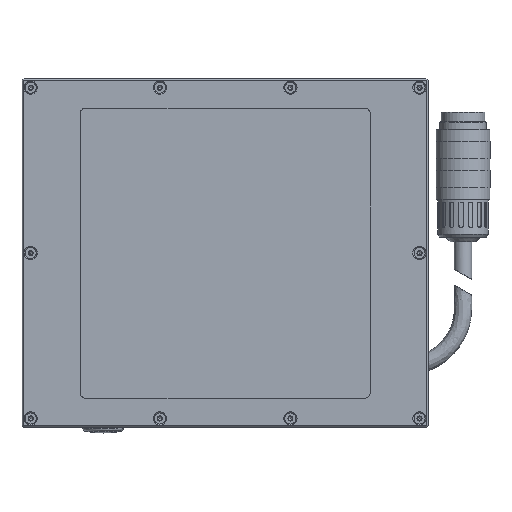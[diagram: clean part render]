
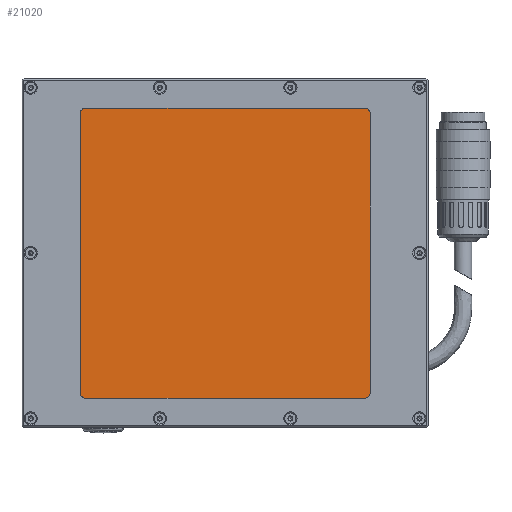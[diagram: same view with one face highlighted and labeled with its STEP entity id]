
A CAD part, top view. The second image highlights one B-rep face of the part: STEP entity #21020.
In plain terms, the highlighted planar face has unit normal (0, 0, 1).
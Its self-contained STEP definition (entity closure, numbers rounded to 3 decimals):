
#1581=CIRCLE('',#22426,2.);
#1582=CIRCLE('',#22428,2.);
#1583=CIRCLE('',#22430,2.);
#1584=CIRCLE('',#22432,2.);
#5241=ORIENTED_EDGE('',*,*,#7492,.T.);
#5242=ORIENTED_EDGE('',*,*,#7499,.T.);
#5243=ORIENTED_EDGE('',*,*,#7489,.T.);
#5244=ORIENTED_EDGE('',*,*,#7500,.T.);
#5245=ORIENTED_EDGE('',*,*,#7486,.T.);
#5246=ORIENTED_EDGE('',*,*,#7501,.T.);
#5247=ORIENTED_EDGE('',*,*,#7495,.T.);
#5248=ORIENTED_EDGE('',*,*,#7498,.T.);
#7486=EDGE_CURVE('',#9010,#9011,#1581,.T.);
#7489=EDGE_CURVE('',#9012,#9013,#1582,.T.);
#7492=EDGE_CURVE('',#9014,#9015,#1583,.T.);
#7495=EDGE_CURVE('',#9016,#9017,#1584,.T.);
#7498=EDGE_CURVE('',#9017,#9014,#10054,.T.);
#7499=EDGE_CURVE('',#9015,#9012,#10055,.T.);
#7500=EDGE_CURVE('',#9013,#9010,#10056,.T.);
#7501=EDGE_CURVE('',#9011,#9016,#10057,.T.);
#9010=VERTEX_POINT('',#33712);
#9011=VERTEX_POINT('',#33713);
#9012=VERTEX_POINT('',#33718);
#9013=VERTEX_POINT('',#33719);
#9014=VERTEX_POINT('',#33724);
#9015=VERTEX_POINT('',#33725);
#9016=VERTEX_POINT('',#33730);
#9017=VERTEX_POINT('',#33731);
#10054=LINE('',#33736,#10987);
#10055=LINE('',#33738,#10988);
#10056=LINE('',#33740,#10989);
#10057=LINE('',#33742,#10990);
#10987=VECTOR('',#25994,1000.);
#10988=VECTOR('',#25997,1000.);
#10989=VECTOR('',#26000,1000.);
#10990=VECTOR('',#26003,1000.);
#12046=EDGE_LOOP('',(#5241,#5242,#5243,#5244,#5245,#5246,#5247,#5248));
#13231=FACE_BOUND('',#12046,.T.);
#13783=PLANE('',#22474);
#21020=ADVANCED_FACE('',(#13231),#13783,.T.);
#22426=AXIS2_PLACEMENT_3D('',#33711,#25968,#25969);
#22428=AXIS2_PLACEMENT_3D('',#33717,#25974,#25975);
#22430=AXIS2_PLACEMENT_3D('',#33723,#25980,#25981);
#22432=AXIS2_PLACEMENT_3D('',#33729,#25986,#25987);
#22474=AXIS2_PLACEMENT_3D('',#37492,#26077,#26078);
#25968=DIRECTION('',(0.,0.,1.));
#25969=DIRECTION('',(1.,0.,0.));
#25974=DIRECTION('',(0.,0.,1.));
#25975=DIRECTION('',(1.,0.,0.));
#25980=DIRECTION('',(0.,0.,1.));
#25981=DIRECTION('',(1.,0.,0.));
#25986=DIRECTION('',(0.,0.,1.));
#25987=DIRECTION('',(1.,0.,0.));
#25994=DIRECTION('',(0.,-1.,0.));
#25997=DIRECTION('',(1.,0.,0.));
#26000=DIRECTION('',(0.,1.,0.));
#26003=DIRECTION('',(-1.,0.,0.));
#26077=DIRECTION('',(0.,0.,1.));
#26078=DIRECTION('',(1.,0.,0.));
#33711=CARTESIAN_POINT('',(48.5,48.5,20.8));
#33712=CARTESIAN_POINT('',(50.5,48.5,20.8));
#33713=CARTESIAN_POINT('',(48.5,50.5,20.8));
#33717=CARTESIAN_POINT('',(48.5,-48.5,20.8));
#33718=CARTESIAN_POINT('',(48.5,-50.5,20.8));
#33719=CARTESIAN_POINT('',(50.5,-48.5,20.8));
#33723=CARTESIAN_POINT('',(-48.5,-48.5,20.8));
#33724=CARTESIAN_POINT('',(-50.5,-48.5,20.8));
#33725=CARTESIAN_POINT('',(-48.5,-50.5,20.8));
#33729=CARTESIAN_POINT('',(-48.5,48.5,20.8));
#33730=CARTESIAN_POINT('',(-48.5,50.5,20.8));
#33731=CARTESIAN_POINT('',(-50.5,48.5,20.8));
#33736=CARTESIAN_POINT('',(-50.5,50.5,20.8));
#33738=CARTESIAN_POINT('',(-50.5,-50.5,20.8));
#33740=CARTESIAN_POINT('',(50.5,-50.5,20.8));
#33742=CARTESIAN_POINT('',(50.5,50.5,20.8));
#37492=CARTESIAN_POINT('',(0.,0.,20.8));
